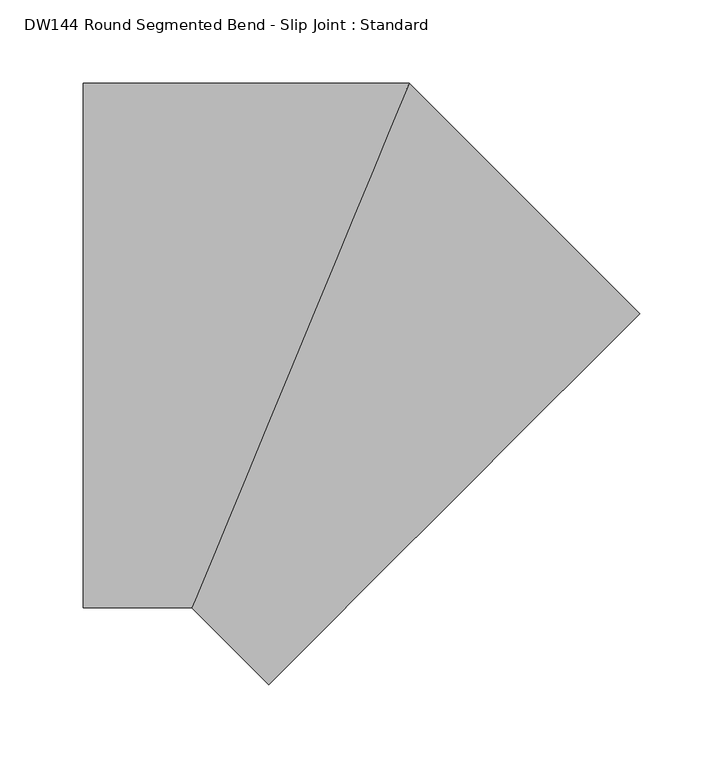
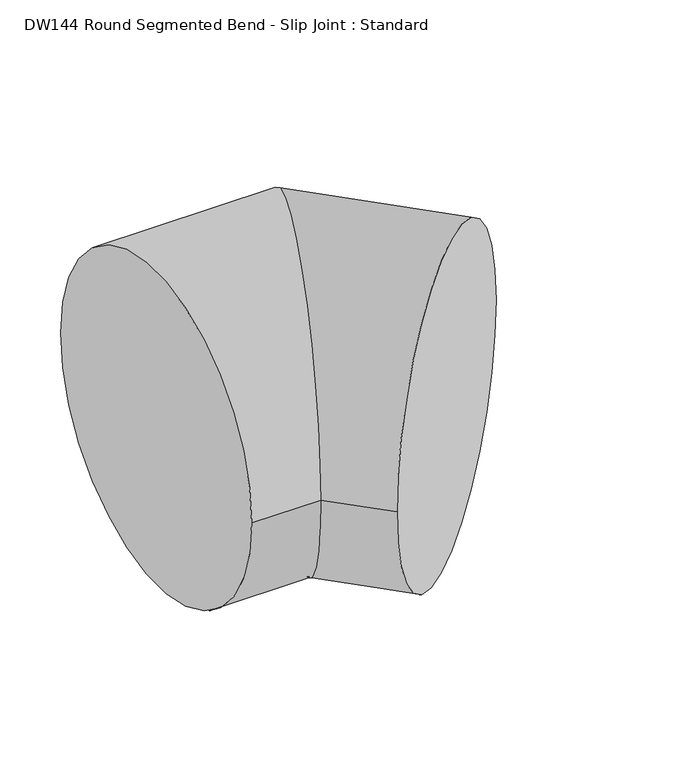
"""IFC4 building model written with IfcOpenShell, lengths in millimetres: duct fitting geometry, DW144 Round Segmented Bend - Slip Joint : Standard."""

from ifc_helpers import new_model, si_unit, frame, origin, place, context, project, spatial, circle_curve, ellipse_curve, source, transform, mapped, element, save
from ifc_brep_helpers import plane_surface, cylinder_surface, advanced_brep


def dw144_round_segmented_bend_slip_joint_standard_b708e37c(model_context):
    return source(origin(), model_context, "Body", "AdvancedBrep", [
        advanced_brep(
        [(-130.4772721, 157.5, 0.0), (-130.4772721, -157.5, 0.0), (-65.2386361, -157.5, 0.0), (65.2386361, 157.5, 0.0), (-19.1079541, -203.630682, 0.0), (203.630682, 19.1079541, 0.0)],
        [
            (0, 1, circle_curve(frame((-130.4772721, 0.0, 0.0), z_axis=(-1.0, 0.0, 0.0), x_axis=(0.0, -1.0, 0.0)), 157.5)),
            (1, 0, circle_curve(frame((-130.4772721, 0.0, 0.0), z_axis=(-1.0, 0.0, 0.0), x_axis=(0.0, -1.0, 0.0)), 157.5)),
            (1, 2),
            (2, 3, ellipse_curve(frame((0.0, 0.0, 0.0), z_axis=(-0.9238795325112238, 0.3826834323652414, 0.0), x_axis=(-0.38268343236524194, -0.9238795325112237, 0.0)), 170.4767715, 157.5)),
            (3, 0),
            (3, 2, ellipse_curve(frame((0.0, 0.0, 0.0), z_axis=(-0.9238795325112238, 0.3826834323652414, 0.0), x_axis=(-0.38268343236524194, -0.9238795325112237, 0.0)), 170.4767715, 157.5)),
            (2, 4),
            (4, 5, circle_curve(frame((92.2613639, -92.2613639, 0.0), z_axis=(-0.707106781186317, 0.7071067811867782, 0.0), x_axis=(-0.7071067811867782, -0.707106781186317, 0.0)), 157.5)),
            (5, 3),
            (5, 4, circle_curve(frame((92.2613639, -92.2613639, 0.0), z_axis=(-0.707106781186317, 0.7071067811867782, 0.0), x_axis=(-0.7071067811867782, -0.707106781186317, 0.0)), 157.5)),
        ],
        [
            plane_surface(frame((-130.4772721, 0.0, 0.0), z_axis=(-1.0, 0.0, 0.0), x_axis=(0.0, 0.0, 1.0))),
            cylinder_surface(frame((-130.4772721, 0.0, 0.0), z_axis=(-1.0, 0.0, 0.0), x_axis=(0.0, -1.0, 0.0)), 157.5),
            cylinder_surface(frame((0.0, 0.0, 0.0), z_axis=(-0.707106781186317, 0.7071067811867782, 0.0), x_axis=(-0.7071067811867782, -0.707106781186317, 0.0)), 157.5),
            plane_surface(frame((92.2613639, -92.2613639, 0.0), z_axis=(0.7071067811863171, -0.707106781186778, 0.0), x_axis=(0.0, 0.0, 1.0))),
        ],
        [
            (0, [[1, 2]]),
            (1, [[3, 4, 5, -2]]),
            (1, [[-5, 6, -3, -1]]),
            (2, [[7, 8, 9, -4]]),
            (2, [[-9, 10, -7, -6]]),
            (3, [[-8, -10]]),
        ],
    ),
    ])


if __name__ == "__main__":
    model = new_model("IFC4")
    model_context = context("Model", 3, world=origin())
    ifc_project = project(units=[si_unit("LENGTHUNIT", "METRE", prefix="MILLI")], contexts=[model_context])
    site = spatial("IfcSite", under=ifc_project)
    building = spatial("IfcBuilding", under=site)
    placement = place(None, origin())
    dw144_round_segmented_bend_slip_joint_standard_shape = dw144_round_segmented_bend_slip_joint_standard_b708e37c(model_context)
    element("IfcDuctFitting", 1, ObjectType="DW144 Round Segmented Bend - Slip Joint : Standard", at=placement, inside=building, context=model_context, shape_type="MappedRepresentation", body=[
        mapped(dw144_round_segmented_bend_slip_joint_standard_shape, transform((0.0, 0.0, 0.0), x_axis=(1.0, 0.0, 0.0), y_axis=(0.0, 1.0, 0.0), z_axis=(0.0, 0.0, 1.0))),
    ])
    save(model, "model.ifc")
